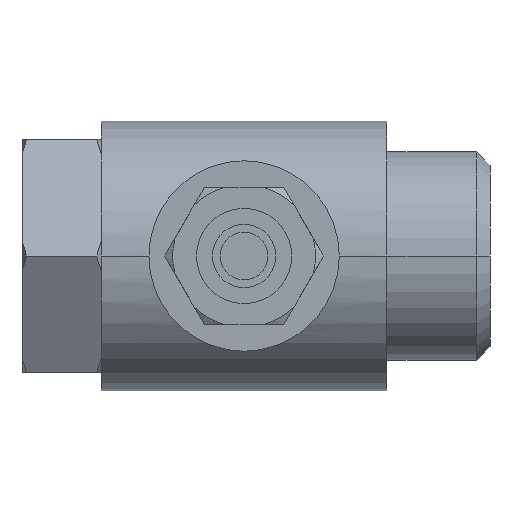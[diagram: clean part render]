
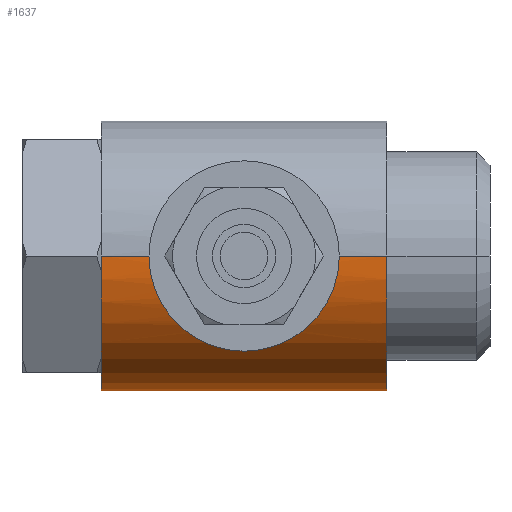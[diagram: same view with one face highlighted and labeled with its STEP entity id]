
A CAD part, left-side view. The second image highlights one B-rep face of the part: STEP entity #1637.
In plain terms, the highlighted cylindrical face has radius 8.5 mm (diameter 17 mm), a partial arc.
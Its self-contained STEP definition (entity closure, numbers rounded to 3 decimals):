
#67=CARTESIAN_POINT('',(8.5,11.,0.));
#68=CARTESIAN_POINT('',(8.5,11.,-0.125));
#69=CARTESIAN_POINT('',(8.495,11.01,-0.375));
#70=CARTESIAN_POINT('',(8.47,11.058,-0.751));
#71=CARTESIAN_POINT('',(8.428,11.137,-1.124));
#72=CARTESIAN_POINT('',(8.37,11.249,-1.494));
#73=CARTESIAN_POINT('',(8.297,11.395,-1.857));
#74=CARTESIAN_POINT('',(8.21,11.575,-2.213));
#75=CARTESIAN_POINT('',(8.109,11.79,-2.558));
#76=CARTESIAN_POINT('',(7.997,12.039,-2.886));
#77=CARTESIAN_POINT('',(7.879,12.321,-3.194));
#78=CARTESIAN_POINT('',(7.759,12.631,-3.475));
#79=CARTESIAN_POINT('',(7.642,12.963,-3.724));
#80=CARTESIAN_POINT('',(7.533,13.311,-3.939));
#81=CARTESIAN_POINT('',(7.437,13.671,-4.118));
#82=CARTESIAN_POINT('',(7.355,14.035,-4.261));
#83=CARTESIAN_POINT('',(7.291,14.402,-4.37));
#84=CARTESIAN_POINT('',(7.245,14.768,-4.445));
#85=CARTESIAN_POINT('',(7.217,15.135,-4.49));
#86=CARTESIAN_POINT('',(7.208,15.5,-4.505));
#87=CARTESIAN_POINT('',(7.217,15.865,-4.49));
#88=CARTESIAN_POINT('',(7.245,16.232,-4.445));
#89=CARTESIAN_POINT('',(7.291,16.598,-4.37));
#90=CARTESIAN_POINT('',(7.355,16.965,-4.261));
#91=CARTESIAN_POINT('',(7.437,17.329,-4.118));
#92=CARTESIAN_POINT('',(7.533,17.689,-3.939));
#93=CARTESIAN_POINT('',(7.642,18.037,-3.724));
#94=CARTESIAN_POINT('',(7.759,18.369,-3.475));
#95=CARTESIAN_POINT('',(7.879,18.679,-3.194));
#96=CARTESIAN_POINT('',(7.997,18.961,-2.886));
#97=CARTESIAN_POINT('',(8.109,19.21,-2.558));
#98=CARTESIAN_POINT('',(8.21,19.425,-2.213));
#99=CARTESIAN_POINT('',(8.297,19.605,-1.857));
#100=CARTESIAN_POINT('',(8.37,19.751,-1.494));
#101=CARTESIAN_POINT('',(8.428,19.863,-1.123));
#102=CARTESIAN_POINT('',(8.47,19.942,-0.751));
#103=CARTESIAN_POINT('',(8.495,19.99,-0.375));
#104=CARTESIAN_POINT('',(8.5,20.,-0.125));
#105=CARTESIAN_POINT('',(8.5,20.,0.));
#107=CARTESIAN_POINT('',(-8.5,20.,0.));
#108=CARTESIAN_POINT('',(-8.5,20.,-0.125));
#109=CARTESIAN_POINT('',(-8.495,19.99,
-0.375));
#110=CARTESIAN_POINT('',(-8.47,19.942,
-0.751));
#111=CARTESIAN_POINT('',(-8.428,19.863,-1.123));
#112=CARTESIAN_POINT('',(-8.37,19.751,-1.494));
#113=CARTESIAN_POINT('',(-8.297,19.605,-1.857));
#114=CARTESIAN_POINT('',(-8.21,19.425,-2.213));
#115=CARTESIAN_POINT('',(-8.109,19.21,-2.558));
#116=CARTESIAN_POINT('',(-7.997,18.961,-2.886));
#117=CARTESIAN_POINT('',(-7.879,18.679,-3.194));
#118=CARTESIAN_POINT('',(-7.759,18.369,-3.475));
#119=CARTESIAN_POINT('',(-7.642,18.037,-3.724));
#120=CARTESIAN_POINT('',(-7.533,17.689,-3.939));
#121=CARTESIAN_POINT('',(-7.437,17.329,-4.118));
#122=CARTESIAN_POINT('',(-7.355,16.965,-4.261));
#123=CARTESIAN_POINT('',(-7.291,16.598,-4.37));
#124=CARTESIAN_POINT('',(-7.245,16.232,-4.445));
#125=CARTESIAN_POINT('',(-7.217,15.865,-4.49));
#126=CARTESIAN_POINT('',(-7.208,15.5,-4.505));
#127=CARTESIAN_POINT('',(-7.217,15.135,-4.49));
#128=CARTESIAN_POINT('',(-7.245,14.768,-4.445));
#129=CARTESIAN_POINT('',(-7.291,14.402,-4.37));
#130=CARTESIAN_POINT('',(-7.355,14.035,-4.261));
#131=CARTESIAN_POINT('',(-7.437,13.671,-4.118));
#132=CARTESIAN_POINT('',(-7.533,13.311,-3.939));
#133=CARTESIAN_POINT('',(-7.642,12.963,-3.724));
#134=CARTESIAN_POINT('',(-7.759,12.631,-3.475));
#135=CARTESIAN_POINT('',(-7.879,12.321,-3.194));
#136=CARTESIAN_POINT('',(-7.997,12.039,-2.886));
#137=CARTESIAN_POINT('',(-8.109,11.79,-2.558));
#138=CARTESIAN_POINT('',(-8.21,11.575,-2.213));
#139=CARTESIAN_POINT('',(-8.297,11.395,-1.857));
#140=CARTESIAN_POINT('',(-8.37,11.249,-1.494));
#141=CARTESIAN_POINT('',(-8.428,11.137,-1.124));
#142=CARTESIAN_POINT('',(-8.47,11.058,
-0.751));
#143=CARTESIAN_POINT('',(-8.495,11.01,
-0.375));
#144=CARTESIAN_POINT('',(-8.5,11.,-0.125));
#145=CARTESIAN_POINT('',(-8.5,11.,0.));
#147=CARTESIAN_POINT('',(0.,6.5,0.));
#148=DIRECTION('',(0.,1.,0.));
#149=DIRECTION('',(1.,0.,0.));
#150=AXIS2_PLACEMENT_3D('',#147,#148,#149);
#178=CARTESIAN_POINT('',(-8.5,11.,0.));
#216=CARTESIAN_POINT('',(-8.5,20.,0.));
#218=DIRECTION('',(0.,1.,0.));
#219=VECTOR('',#218,4.5);
#220=CARTESIAN_POINT('',(-8.5,20.,0.));
#221=LINE('',#220,#219);
#222=DIRECTION('',(0.,1.,0.));
#223=VECTOR('',#222,4.5);
#224=CARTESIAN_POINT('',(8.5,20.,0.));
#225=LINE('',#224,#223);
#266=DIRECTION('',(0.,1.,0.));
#267=VECTOR('',#266,4.5);
#268=CARTESIAN_POINT('',(8.5,6.5,0.));
#269=LINE('',#268,#267);
#275=DIRECTION('',(0.,1.,0.));
#276=VECTOR('',#275,4.5);
#277=CARTESIAN_POINT('',(-8.5,6.5,0.));
#278=LINE('',#277,#276);
#323=CARTESIAN_POINT('',(0.,24.5,0.));
#324=DIRECTION('',(0.,-1.,0.));
#325=DIRECTION('',(-1.,0.,0.));
#326=AXIS2_PLACEMENT_3D('',#323,#324,#325);
#1319=CARTESIAN_POINT('',(8.5,6.5,0.));
#1320=CARTESIAN_POINT('',(-8.5,6.5,0.));
#1321=VERTEX_POINT('',#1319);
#1322=VERTEX_POINT('',#1320);
#1347=CARTESIAN_POINT('',(8.5,24.5,0.));
#1348=CARTESIAN_POINT('',(-8.5,24.5,0.));
#1349=VERTEX_POINT('',#1347);
#1350=VERTEX_POINT('',#1348);
#1387=VERTEX_POINT('',#67);
#1388=VERTEX_POINT('',#105);
#1389=VERTEX_POINT('',#178);
#1390=VERTEX_POINT('',#216);
#1615=CARTESIAN_POINT('',(0.,-1.475,0.));
#1616=DIRECTION('',(0.,1.,0.));
#1617=DIRECTION('',(1.,0.,0.));
#1618=AXIS2_PLACEMENT_3D('',#1615,#1616,#1617);
#1619=CYLINDRICAL_SURFACE('',#1618,8.5);
#1621=ORIENTED_EDGE('',*,*,#1620,.T.);
#1623=ORIENTED_EDGE('',*,*,#1622,.T.);
#1625=ORIENTED_EDGE('',*,*,#1624,.F.);
#1627=ORIENTED_EDGE('',*,*,#1626,.F.);
#1629=ORIENTED_EDGE('',*,*,#1628,.T.);
#1631=ORIENTED_EDGE('',*,*,#1630,.F.);
#1632=ORIENTED_EDGE('',*,*,#1604,.F.);
#1634=ORIENTED_EDGE('',*,*,#1633,.T.);
#1635=EDGE_LOOP('',(#1621,#1623,#1625,#1627,#1629,#1631,#1632,#1634));
#1636=FACE_OUTER_BOUND('',#1635,.F.);
#1637=ADVANCED_FACE('',(#1636),#1619,.T.);
#106=B_SPLINE_CURVE_WITH_KNOTS('',3,(#67,#68,#69,#70,#71,#72,#73,#74,#75,#76,
#77,#78,#79,#80,#81,#82,#83,#84,#85,#86,#87,#88,#89,#90,#91,#92,#93,#94,#95,#96,
#97,#98,#99,#100,#101,#102,#103,#104,#105),.UNSPECIFIED.,.F.,.F.,(4,1,1,1,1,1,1,
1,1,1,1,1,1,1,1,1,1,1,1,1,1,1,1,1,1,1,1,1,1,1,1,1,1,1,1,1,4),(0.,
0.028,0.056,0.083,0.111,
0.139,0.167,0.194,0.222,0.25,
0.278,0.306,0.333,0.361,
0.389,0.417,0.444,0.472,0.5,
0.528,0.556,0.583,0.611,
0.639,0.667,0.694,0.722,0.75,
0.778,0.806,0.833,0.861,
0.889,0.917,0.944,0.972,1.),
.UNSPECIFIED.);
#146=B_SPLINE_CURVE_WITH_KNOTS('',3,(#107,#108,#109,#110,#111,#112,#113,#114,
#115,#116,#117,#118,#119,#120,#121,#122,#123,#124,#125,#126,#127,#128,#129,#130,
#131,#132,#133,#134,#135,#136,#137,#138,#139,#140,#141,#142,#143,#144,#145),
.UNSPECIFIED.,.F.,.F.,(4,1,1,1,1,1,1,1,1,1,1,1,1,1,1,1,1,1,1,1,1,1,1,1,1,1,1,1,
1,1,1,1,1,1,1,1,4),(0.,0.028,0.056,0.083,
0.111,0.139,0.167,0.194,
0.222,0.25,0.278,0.306,0.333,
0.361,0.389,0.417,0.444,
0.472,0.5,0.528,0.556,0.583,
0.611,0.639,0.667,0.694,
0.722,0.75,0.778,0.806,0.833,
0.861,0.889,0.917,0.944,
0.972,1.),.UNSPECIFIED.);
#151=CIRCLE('',#150,8.5);
#327=CIRCLE('',#326,8.5);
#1604=EDGE_CURVE('',#1321,#1322,#151,.T.);
#1620=EDGE_CURVE('',#1387,#1388,#106,.T.);
#1622=EDGE_CURVE('',#1388,#1349,#225,.T.);
#1624=EDGE_CURVE('',#1350,#1349,#327,.T.);
#1626=EDGE_CURVE('',#1390,#1350,#221,.T.);
#1628=EDGE_CURVE('',#1390,#1389,#146,.T.);
#1630=EDGE_CURVE('',#1322,#1389,#278,.T.);
#1633=EDGE_CURVE('',#1321,#1387,#269,.T.);
